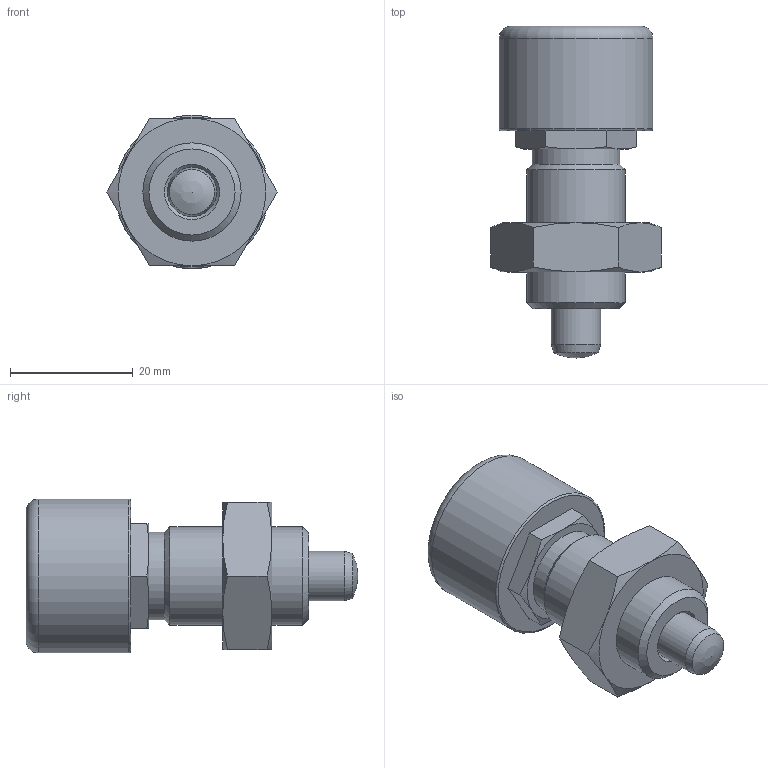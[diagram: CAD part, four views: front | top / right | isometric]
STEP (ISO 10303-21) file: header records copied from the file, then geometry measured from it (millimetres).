
FILE_DESCRIPTION( ( 'STEP AP203' ), '1' );
FILE_NAME( 'C:/Temp/Ganter_Step_05_03_2020/data/3_1/gn514/gn514_ak/Locking plunger GN 514-8-AK (activated).stp', '2020-03-12T08:32:08', ( 'License CC BY-ND 4.0' ), ( 'CADENAS' ), ' ', 'PARTsolutions', ' ' );
FILE_SCHEMA( ( 'CONFIG_CONTROL_DESIGN' ) );
Length unit declared in the file: millimetre
Products named in the file (3): Locking plunger GN 514-8-AK (activated); _Locking plunger GN 514-8-AK (activated)-1; _Locking plunger GN 514-8-AK (activated)-2
Assembly tree (2 placements, depth 2):
  Locking plunger GN 514-8-AK (activated)
    _Locking plunger GN 514-8-AK (activated)-1
    _Locking plunger GN 514-8-AK (activated)-2
Bounding box: 27.71 x 54 x 25 mm (x, y, z)
Volume: 15871.6 mm3; surface area: 9205 mm2
Topology: 2 solids, 2 shells, 89 faces, 180 edges, 107 vertices
Faces by surface type: plane 34, cone 23, torus 16, cylinder 14, bspline 1, sphere 1
Full cylindrical faces by diameter (mm): 8 x6, 12 x4, 14.2 x1, 16 x2, 25 x1
Entity records: 2365 total; most frequent: CARTESIAN_POINT 601, DIRECTION 346, ORIENTED_EDGE 278, AXIS2_PLACEMENT_3D 158, EDGE_LOOP 140, EDGE_CURVE 139, FACE_OUTER_BOUND 119, VERTEX_POINT 105
